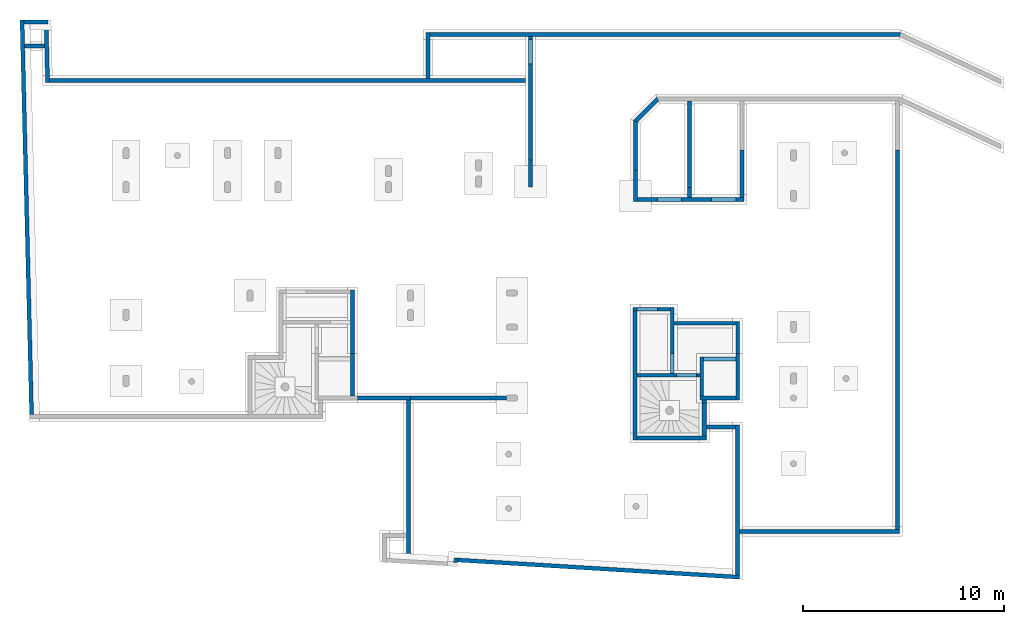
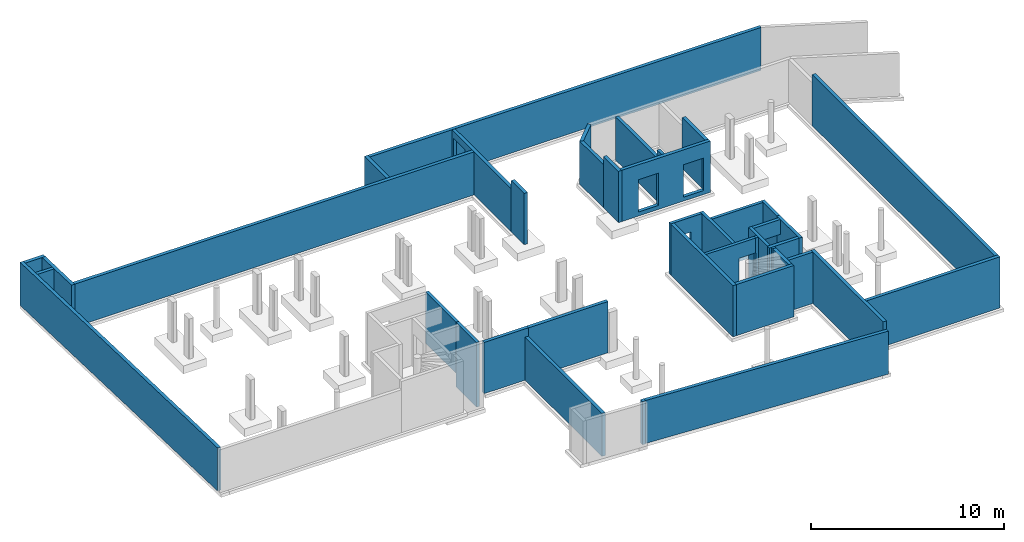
# One storey, part 4 of 6: 41 walls, 8 openings.
"""IFC2X3 building model written with IfcOpenShell, lengths in millimetres."""

from ifc_helpers import new_model, entity, si_unit, converted_unit, frame, frame_2d, origin, origin_with_axes, place, context, subcontext, project, spatial, polyline, rectangle, outline, extrude, faceted_brep, material, layer, layer_set, layer_usage, element, save


model = new_model("IFC2X3")

# Units and contexts
model_context = context("Model", 3, precision=1e-05, world=origin())
body_context = subcontext(model_context, "Body", "Model", "MODEL_VIEW")
ifc_project = project(units=[si_unit("LENGTHUNIT", "METRE", prefix="MILLI"), converted_unit("PLANEANGLEUNIT", "DEGREE", entity("IfcPlaneAngleMeasure", 0.0174532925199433), si_unit("PLANEANGLEUNIT", "RADIAN"), dimensions=[0, 0, 0, 0, 0, 0, 0]), si_unit("AREAUNIT", "SQUARE_METRE"), si_unit("VOLUMEUNIT", "CUBIC_METRE")], contexts=[model_context])

# Site, building, storey
site_placement = place(None, origin())
site = spatial("IfcSite", under=ifc_project, at=site_placement, Name="Propriété", CompositionType="ELEMENT")
building_placement = place(site_placement, origin_with_axes())
building = spatial("IfcBuilding", under=site, at=building_placement, Name="Bâtiment", CompositionType="ELEMENT")
storey_placement = place(building_placement, frame((0.0, 0.0, -3300.0), z_axis=(0.0, 0.0, 1.0), x_axis=(1.0, 0.0, 0.0)))
storey = spatial("IfcBuildingStorey", under=building, at=storey_placement, Name="Sous-sol", CompositionType="ELEMENT", Elevation=-3300.0)

# Walls
ifc_material_1 = material(Name="béton")
ifc_layer_1 = layer(ifc_material_1, 200.0)
ifc_layer_set_1 = layer_set([ifc_layer_1])
ifc_layer_usage_1 = layer_usage(ifc_layer_set_1, "AXIS2", "POSITIVE", 0.0)
wall_1_placement = place(storey_placement, frame((14620.58775641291, 1284.429874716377, 0.0), z_axis=(0.0, 0.0, 1.0), x_axis=(0.0, -1.0, 0.0)))
element("IfcWallStandardCase", 1, at=wall_1_placement, inside=storey, material=ifc_layer_usage_1, Name="<Unnamed Element>", context=body_context, shape_type="SweptSolid", body=[
    extrude(outline(polyline([(0.0, 0.0), (7952.179455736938, 0.0), (7963.888086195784, 200.0), (0.0, 200.0), (0.0, 0.0)])), origin_with_axes(), (0.0, 0.0, 1.0), 2720.0),
])
ifc_material_2 = material(Name="béton")
ifc_layer_2 = layer(ifc_material_2, 199.999999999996)
ifc_layer_set_2 = layer_set([ifc_layer_2])
ifc_layer_usage_2 = layer_usage(ifc_layer_set_2, "AXIS2", "POSITIVE", 0.0)
wall_2_placement = place(storey_placement, frame((17161.72038704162, -6816.515495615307, 0.0), z_axis=(0.0, 0.0, 1.0), x_axis=(0.05844308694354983, 0.998290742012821, 0.0)))
element("IfcWallStandardCase", 2, at=wall_2_placement, inside=storey, material=ifc_layer_usage_2, Name="<Unnamed Element>", context=body_context, shape_type="SweptSolid", body=[
    extrude(outline(polyline([(0.0, 0.0), (226.1947354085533, 0.0), (226.6984999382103, 199.999999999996), (6.117772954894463e-12, 199.999999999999), (0.0, 0.0)])), origin_with_axes(), (0.0, 0.0, 1.0), 2720.0),
])
ifc_material_3 = material(Name="béton")
ifc_layer_3 = layer(ifc_material_3, 199.9999999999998)
ifc_layer_set_3 = layer_set([ifc_layer_3])
ifc_layer_usage_3 = layer_usage(ifc_layer_set_3, "AXIS2", "POSITIVE", 0.0)
wall_3_placement = place(storey_placement, frame((17163.25125116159, -6790.366167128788, 0.0), z_axis=(0.0, 0.0, 1.0), x_axis=(0.998140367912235, -0.06095741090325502, 0.0)))
element("IfcWallStandardCase", 3, at=wall_3_placement, inside=storey, material=ifc_layer_usage_3, Name="<Unnamed Element>", context=body_context, shape_type="SweptSolid", body=[
    extrude(outline(polyline([(0.0, 0.0), (14063.48942144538, 0.0), (14051.27522535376, 199.9999999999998), (-0.5037645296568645, 199.9999999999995), (0.0, 0.0)])), origin_with_axes(), (0.0, 0.0, 1.0), 2720.0),
])
ifc_material_4 = material(Name="béton")
ifc_layer_4 = layer(ifc_material_4, 200.0)
ifc_layer_set_4 = layer_set([ifc_layer_4])
ifc_layer_usage_4 = layer_usage(ifc_layer_set_4, "AXIS2", "POSITIVE", 0.0)
wall_4_placement = place(storey_placement, frame((31200.58775641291, -7447.267451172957, 0.0), z_axis=(0.0, 0.0, 1.0), x_axis=(0.0, 1.0, 0.0)))
element("IfcWallStandardCase", 4, at=wall_4_placement, inside=storey, material=ifc_layer_usage_4, Name="<Unnamed Element>", context=body_context, shape_type="SweptSolid", body=[
    extrude(outline(polyline([(0.0, 0.0), (7481.697325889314, 0.0), (7481.697325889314, 200.0), (12.21419609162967, 200.0), (0.0, 0.0)])), origin_with_axes(), (0.0, 0.0, 1.0), 3240.0),
])
ifc_material_5 = material(Name="béton")
ifc_layer_5 = layer(ifc_material_5, 200.0)
ifc_layer_set_5 = layer_set([ifc_layer_5])
ifc_layer_usage_5 = layer_usage(ifc_layer_set_5, "AXIS2", "POSITIVE", 0.0)
wall_5_placement = place(storey_placement, frame((31000.58775641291, 34.42987471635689, 0.0), z_axis=(0.0, 0.0, 1.0), x_axis=(-0.9999999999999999, 1.37698281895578e-15, 0.0)))
element("IfcWallStandardCase", 5, at=wall_5_placement, inside=storey, material=ifc_layer_usage_5, Name="<Unnamed Element>", context=body_context, shape_type="SweptSolid", body=[
    extrude(rectangle(XDim=1450.0, YDim=200.0, at=frame_2d((725.0, 99.99999999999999), x_axis=(1.0, 0.0))), origin_with_axes(), (0.0, 0.0, 1.0), 3240.0),
])
ifc_material_6 = material(Name="béton")
ifc_layer_6 = layer(ifc_material_6, 200.0)
ifc_layer_set_6 = layer_set([ifc_layer_6])
ifc_layer_usage_6 = layer_usage(ifc_layer_set_6, "AXIS2", "POSITIVE", 0.0)
wall_6_placement = place(storey_placement, frame((29230.58775641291, 1284.429874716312, -850.0), z_axis=(0.0, 0.0, 1.0), x_axis=(0.9999999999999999, 1.092409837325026e-14, 0.0)))
element("IfcWallStandardCase", 6, at=wall_6_placement, inside=storey, material=ifc_layer_usage_6, Name="<Unnamed Element>", context=body_context, shape_type="SweptSolid", body=[
    extrude(rectangle(XDim=1790.0, YDim=200.0, at=frame_2d((895.0, 99.99999999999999), x_axis=(1.0, 0.0))), origin_with_axes(), (0.0, 0.0, 1.0), 4090.0),
])
ifc_material_7 = material(Name="béton")
ifc_layer_7 = layer(ifc_material_7, 180.0)
ifc_layer_set_7 = layer_set([ifc_layer_7])
ifc_layer_usage_7 = layer_usage(ifc_layer_set_7, "AXIS2", "POSITIVE", 0.0)
wall_7_placement = place(storey_placement, frame((31020.58775641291, 5204.429874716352, 0.0), z_axis=(0.0, 0.0, 1.0), x_axis=(-1.0, 0.0, 0.0)))
element("IfcWallStandardCase", 7, at=wall_7_placement, inside=storey, material=ifc_layer_usage_7, Name="<Unnamed Element>", context=body_context, shape_type="SweptSolid", body=[
    extrude(rectangle(XDim=3069.999999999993, YDim=180.0, at=frame_2d((1534.999999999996, 90.0), x_axis=(1.0, 0.0))), origin_with_axes(), (0.0, 0.0, 1.0), 3240.0),
])

# Wall, opening
ifc_material_8 = material(Name="béton")
ifc_layer_8 = layer(ifc_material_8, 180.0)
ifc_layer_set_8 = layer_set([ifc_layer_8])
ifc_layer_usage_8 = layer_usage(ifc_layer_set_8, "AXIS2", "POSITIVE", 0.0)
wall_8_placement = place(storey_placement, frame((27950.58775641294, 2604.429874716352, 0.0), z_axis=(0.0, 0.0, 1.0), x_axis=(-9.9217603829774e-15, 1.0, 0.0)))
wall_8 = element("IfcWallStandardCase", 8, at=wall_8_placement, inside=storey, material=ifc_layer_usage_8, Name="<Unnamed Element>", context=body_context, shape_type="SweptSolid", body=[
    extrude(rectangle(XDim=3300.0, YDim=180.0, at=frame_2d((1650.0, 90.0), x_axis=(1.0, 0.0))), origin_with_axes(), (0.0, 0.0, 1.0), 3240.0),
])
opening_1_placement = place(wall_8_placement, frame((0.0, 0.0, 250.0), z_axis=(0.0, 1.0, 0.0), x_axis=(0.0, 0.0, 1.0)))
element("IfcOpeningElement", 9, at=opening_1_placement, cuts=wall_8, Name="Baie de porte", ObjectType="Opening", context=body_context, shape_type="Brep", body=[
    faceted_brep([(0.0, 1.818989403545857e-12, 180.0), (0.0, 0.0, 0.0), (0.0, 1010.0, 0.0), (0.0, 1010.000000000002, 180.0), (2050.0, 0.0, 0.0), (2050.0, 1.818989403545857e-12, 180.0), (2050.0, 1010.000000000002, 180.0), (2050.0, 1010.0, 0.0), (0.0, 0.0, 0.0), (0.0, 1.818989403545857e-12, 180.0), (2050.0, 1.818989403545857e-12, 180.0), (2050.0, 0.0, 0.0), (0.0, 1010.0, 0.0), (0.0, 0.0, 0.0), (2050.0, 0.0, 0.0), (2050.0, 1010.0, 0.0), (0.0, 1010.000000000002, 180.0), (0.0, 1010.0, 0.0), (2050.0, 1010.0, 0.0), (2050.0, 1010.000000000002, 180.0), (0.0, 1.818989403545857e-12, 180.0), (0.0, 1010.000000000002, 180.0), (2050.0, 1010.000000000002, 180.0), (2050.0, 1.818989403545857e-12, 180.0)], [[[0, 1, 2, 3]], [[4, 5, 6, 7]], [[8, 9, 10, 11]], [[12, 13, 14, 15]], [[16, 17, 18, 19]], [[20, 21, 22, 23]]], orient=[[False], [False], [False], [False], [False], [False]]),
])

ifc_material_9 = material(Name="béton")
ifc_layer_9 = layer(ifc_material_9, 180.0)
ifc_layer_set_9 = layer_set([ifc_layer_9])
ifc_layer_usage_9 = layer_usage(ifc_layer_set_9, "AXIS2", "POSITIVE", 0.0)
wall_9_placement = place(storey_placement, frame((27770.58775641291, 5904.429874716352, 0.0), z_axis=(0.0, 0.0, 1.0), x_axis=(-1.0, 0.0, 0.0)))
wall_9 = element("IfcWallStandardCase", 10, at=wall_9_placement, inside=storey, material=ifc_layer_usage_9, Name="<Unnamed Element>", context=body_context, shape_type="SweptSolid", body=[
    extrude(rectangle(XDim=1870.0, YDim=180.0, at=frame_2d((935.0, 90.0), x_axis=(1.0, 0.0))), origin_with_axes(), (0.0, 0.0, 1.0), 3240.0),
])
opening_2_placement = place(wall_9_placement, frame((660.0, 0.0, 250.0), z_axis=(0.0, 1.0, 0.0), x_axis=(0.0, 0.0, 1.0)))
element("IfcOpeningElement", 11, at=opening_2_placement, cuts=wall_9, Name="Baie de porte", ObjectType="Opening", context=body_context, shape_type="SweptSolid", body=[
    extrude(rectangle(XDim=2050.0, YDim=1010.0, at=frame_2d((1025.0, 505.0), x_axis=(1.0, 0.0))), origin_with_axes(), (0.0, 0.0, 1.0), 180.0),
])

# Walls
ifc_material_10 = material(Name="béton")
ifc_layer_10 = layer(ifc_material_10, 200.0)
ifc_layer_set_10 = layer_set([ifc_layer_10])
ifc_layer_usage_10 = layer_usage(ifc_layer_set_10, "AXIS2", "POSITIVE", 0.0)
wall_10_placement = place(storey_placement, frame((25900.58775641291, 5724.429874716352, 0.0), z_axis=(0.0, 0.0, 1.0), x_axis=(0.0, -1.0, 0.0)))
element("IfcWallStandardCase", 12, at=wall_10_placement, inside=storey, material=ifc_layer_usage_10, Name="<Unnamed Element>", context=body_context, shape_type="SweptSolid", body=[
    extrude(rectangle(XDim=6440.0, YDim=200.0, at=frame_2d((3220.0, 100.0), x_axis=(1.0, 0.0))), origin_with_axes(), (0.0, 0.0, 1.0), 3240.0),
])
ifc_material_11 = material(Name="béton")
ifc_layer_11 = layer(ifc_material_11, 200.0)
ifc_layer_set_11 = layer_set([ifc_layer_11])
ifc_layer_usage_11 = layer_usage(ifc_layer_set_11, "AXIS2", "POSITIVE", 0.0)
wall_11_placement = place(storey_placement, frame((26100.58775641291, -715.5701252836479, 0.0), z_axis=(0.0, 0.0, 1.0), x_axis=(1.0, 0.0, 0.0)))
element("IfcWallStandardCase", 13, at=wall_11_placement, inside=storey, material=ifc_layer_usage_11, Name="<Unnamed Element>", context=body_context, shape_type="SweptSolid", body=[
    extrude(rectangle(XDim=3450.0, YDim=200.0, at=frame_2d((1725.0, 100.0), x_axis=(1.0, 0.0))), origin_with_axes(), (0.0, 0.0, 1.0), 3240.0),
])
ifc_material_12 = material(Name="béton")
ifc_layer_12 = layer(ifc_material_12, 200.0)
ifc_layer_set_12 = layer_set([ifc_layer_12])
ifc_layer_usage_12 = layer_usage(ifc_layer_set_12, "AXIS2", "POSITIVE", 0.0)
wall_12_placement = place(storey_placement, frame((31200.58775641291, -5365.570125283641, 0.0), z_axis=(0.0, 0.0, 1.0), x_axis=(0.9999999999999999, 0.0, 0.0)))
element("IfcWallStandardCase", 14, at=wall_12_placement, inside=storey, material=ifc_layer_usage_12, Name="<Unnamed Element>", context=body_context, shape_type="SweptSolid", body=[
    extrude(rectangle(XDim=7990.0, YDim=200.0, at=frame_2d((3995.0, 99.99999999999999), x_axis=(1.0, 0.0))), origin_with_axes(), (0.0, 0.0, 1.0), 3240.0),
])
ifc_material_13 = material(Name="béton")
ifc_layer_13 = layer(ifc_material_13, 199.9999999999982)
ifc_layer_set_13 = layer_set([ifc_layer_13])
ifc_layer_usage_13 = layer_usage(ifc_layer_set_13, "AXIS2", "POSITIVE", 0.0)
wall_13_placement = place(storey_placement, frame((26120.58775641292, 15134.42987471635, 0.0), z_axis=(0.0, 0.0, 1.0), x_axis=(0.7071067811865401, 0.7071067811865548, 0.0)))
element("IfcWallStandardCase", 15, at=wall_13_placement, inside=storey, material=ifc_layer_usage_13, Name="<Unnamed Element>", context=body_context, shape_type="SweptSolid", body=[
    extrude(outline(polyline([(0.0, 0.0), (1484.924240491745, 0.0), (1567.766952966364, 199.9999999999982), (-82.8427124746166, 200.0000000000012), (0.0, 0.0)])), origin_with_axes(), (0.0, 0.0, 1.0), 2720.0),
])

# Wall, openings
ifc_material_14 = material(Name="béton")
ifc_layer_14 = layer(ifc_material_14, 200.0)
ifc_layer_set_14 = layer_set([ifc_layer_14])
ifc_layer_usage_14 = layer_usage(ifc_layer_set_14, "AXIS2", "POSITIVE", 0.0)
wall_14_placement = place(storey_placement, frame((26120.58775641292, 11184.42987471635, 0.0), z_axis=(0.0, 0.0, 1.0), x_axis=(1.0, 0.0, 0.0)))
wall_14 = element("IfcWallStandardCase", 16, at=wall_14_placement, inside=storey, material=ifc_layer_usage_14, Name="<Unnamed Element>", context=body_context, shape_type="SweptSolid", body=[
    extrude(rectangle(XDim=5299.999999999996, YDim=200.0, at=frame_2d((2649.999999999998, 100.0), x_axis=(1.0, 0.0))), origin_with_axes(), (0.0, 0.0, 1.0), 3240.0),
])
opening_3_placement = place(wall_14_placement, frame((989.9999999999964, 0.0, 250.0), z_axis=(0.0, 1.0, 0.0), x_axis=(0.0, 0.0, 1.0)))
element("IfcOpeningElement", 17, at=opening_3_placement, cuts=wall_14, Name="Baie de porte", ObjectType="Opening", context=body_context, shape_type="SweptSolid", body=[
    extrude(rectangle(XDim=2050.0, YDim=1210.0, at=frame_2d((1025.0, 605.0), x_axis=(1.0, 0.0))), origin_with_axes(), (0.0, 0.0, 1.0), 200.0),
])
opening_4_placement = place(wall_14_placement, frame((3689.999999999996, 0.0, 250.0), z_axis=(0.0, 1.0, 0.0), x_axis=(0.0, 0.0, 1.0)))
element("IfcOpeningElement", 18, at=opening_4_placement, cuts=wall_14, Name="Baie de porte", ObjectType="Opening", context=body_context, shape_type="SweptSolid", body=[
    extrude(rectangle(XDim=2050.0, YDim=1210.0, at=frame_2d((1025.0, 605.0), x_axis=(1.0, 0.0))), origin_with_axes(), (0.0, 0.0, 1.0), 200.0),
])

# Walls
ifc_material_15 = material(Name="béton")
ifc_layer_15 = layer(ifc_material_15, 200.0)
ifc_layer_set_15 = layer_set([ifc_layer_15])
ifc_layer_usage_15 = layer_usage(ifc_layer_set_15, "AXIS2", "POSITIVE", 0.0)
wall_15_placement = place(storey_placement, frame((19585.5877564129, 1484.429874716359, 0.0), z_axis=(0.0, 0.0, 1.0), x_axis=(-1.0, 3.817396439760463e-15, 0.0)))
element("IfcWallStandardCase", 19, at=wall_15_placement, inside=storey, material=ifc_layer_usage_15, Name="<Unnamed Element>", context=body_context, shape_type="SweptSolid", body=[
    extrude(rectangle(XDim=4764.999999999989, YDim=200.0, at=frame_2d((2382.499999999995, 100.0), x_axis=(1.0, 0.0))), origin_with_axes(), (0.0, 0.0, 1.0), 3240.0),
])
ifc_material_16 = material(Name="béton")
ifc_layer_16 = layer(ifc_material_16, 180.0)
ifc_layer_set_16 = layer_set([ifc_layer_16])
ifc_layer_usage_16 = layer_usage(ifc_layer_set_16, "AXIS2", "POSITIVE", 0.0)
wall_16_placement = place(storey_placement, frame((29230.58775641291, 3434.429874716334, -850.0), z_axis=(0.0, 0.0, 1.0), x_axis=(0.0, -1.0, 0.0)))
element("IfcWallStandardCase", 20, at=wall_16_placement, inside=storey, material=ifc_layer_usage_16, Name="<Unnamed Element>", context=body_context, shape_type="SweptSolid", body=[
    extrude(rectangle(XDim=1950.0, YDim=180.0, at=frame_2d((975.0, 90.0), x_axis=(1.0, 0.0))), origin_with_axes(), (0.0, 0.0, 1.0), 4090.0),
])

# Wall, opening
ifc_material_17 = material(Name="béton")
ifc_layer_17 = layer(ifc_material_17, 200.0)
ifc_layer_set_17 = layer_set([ifc_layer_17])
ifc_layer_usage_17 = layer_usage(ifc_layer_set_17, "AXIS2", "POSITIVE", 0.0)
wall_17_placement = place(storey_placement, frame((31020.58775641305, 3434.429874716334, -850.0), z_axis=(0.0, 0.0, 1.0), x_axis=(-1.0, 0.0, 0.0)))
wall_17 = element("IfcWallStandardCase", 21, at=wall_17_placement, inside=storey, material=ifc_layer_usage_17, Name="<Unnamed Element>", context=body_context, shape_type="SweptSolid", body=[
    extrude(rectangle(XDim=1610.000000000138, YDim=200.0, at=frame_2d((805.0000000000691, 100.0), x_axis=(1.0, 0.0))), origin_with_axes(), (0.0, 0.0, 1.0), 4090.0),
])
opening_5_placement = place(wall_17_placement, frame((0.0, 0.0, 1100.0), z_axis=(0.0, 1.0, 0.0), x_axis=(0.0, 0.0, 1.0)))
element("IfcOpeningElement", 22, at=opening_5_placement, cuts=wall_17, Name="Baie de porte", ObjectType="Opening", context=body_context, shape_type="Brep", body=[
    faceted_brep([(0.0, 1610.000000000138, 0.0), (0.0, 1610.000000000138, 200.0), (0.0, 0.0, 200.0), (0.0, 0.0, 0.0), (2050.0, 1610.000000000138, 200.0), (2050.0, 1610.000000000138, 0.0), (2050.0, 0.0, 0.0), (2050.0, 0.0, 200.0), (0.0, 1610.000000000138, 200.0), (0.0, 1610.000000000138, 0.0), (2050.0, 1610.000000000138, 0.0), (2050.0, 1610.000000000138, 200.0), (0.0, 0.0, 200.0), (0.0, 1610.000000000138, 200.0), (2050.0, 1610.000000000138, 200.0), (2050.0, 0.0, 200.0), (0.0, 0.0, 0.0), (0.0, 0.0, 200.0), (2050.0, 0.0, 200.0), (2050.0, 0.0, 0.0), (0.0, 1610.000000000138, 0.0), (0.0, 0.0, 0.0), (2050.0, 0.0, 0.0), (2050.0, 1610.000000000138, 0.0)], [[[0, 1, 2, 3]], [[4, 5, 6, 7]], [[8, 9, 10, 11]], [[12, 13, 14, 15]], [[16, 17, 18, 19]], [[20, 21, 22, 23]]], orient=[[False], [False], [False], [False], [False], [False]]),
])

# Walls
ifc_material_18 = material(Name="béton")
ifc_layer_18 = layer(ifc_material_18, 200.0)
ifc_layer_set_18 = layer_set([ifc_layer_18])
ifc_layer_usage_18 = layer_usage(ifc_layer_set_18, "AXIS2", "POSITIVE", 0.0)
wall_18_placement = place(storey_placement, frame((-4650.858561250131, 20223.90173189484, 0.0), z_axis=(0.0, 0.0, 1.0), x_axis=(0.0241792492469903, -0.9997076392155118, 0.0)))
element("IfcWallStandardCase", 23, at=wall_18_placement, inside=storey, material=ifc_layer_usage_18, Name="<Unnamed Element>", context=body_context, shape_type="SweptSolid", body=[
    extrude(outline(polyline([(0.0, 0.0), (19655.21827221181, 0.0), (19660.05553628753, 200.0), (4.837264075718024, 200.0000000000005), (0.0, 0.0)])), origin_with_axes(), (0.0, 0.0, 1.0), 2720.0),
])
ifc_material_19 = material(Name="béton")
ifc_layer_19 = layer(ifc_material_19, 200.0)
ifc_layer_set_19 = layer_set([ifc_layer_19])
ifc_layer_usage_19 = layer_usage(ifc_layer_set_19, "AXIS2", "POSITIVE", 0.0)
wall_19_placement = place(storey_placement, frame((-3250.449136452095, 20223.90173189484, 0.0), z_axis=(0.0, 0.0, 1.0), x_axis=(-1.0, 0.0, 0.0)))
element("IfcWallStandardCase", 24, at=wall_19_placement, inside=storey, material=ifc_layer_usage_19, Name="<Unnamed Element>", context=body_context, shape_type="SweptSolid", body=[
    extrude(outline(polyline([(0.0, 0.0), (1200.350935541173, 0.0), (1195.513671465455, 200.0), (-4.837264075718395, 200.0), (0.0, 0.0)])), origin_with_axes(), (0.0, 0.0, 1.0), 2720.0),
])
ifc_material_20 = material(Name="béton")
ifc_layer_20 = layer(ifc_material_20, 200.0)
ifc_layer_set_20 = layer_set([ifc_layer_20])
ifc_layer_usage_20 = layer_usage(ifc_layer_set_20, "AXIS2", "POSITIVE", 0.0)
wall_20_placement = place(storey_placement, frame((-3174.884724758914, 17099.6393178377, 0.0), z_axis=(0.0, 0.0, 1.0), x_axis=(-0.0241792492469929, 0.9997076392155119, 0.0)))
element("IfcWallStandardCase", 25, at=wall_20_placement, inside=storey, material=ifc_layer_usage_20, Name="<Unnamed Element>", context=body_context, shape_type="SweptSolid", body=[
    extrude(outline(polyline([(0.0, 0.0), (2925.117603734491, -1.4210854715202e-14), (2929.954867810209, 200.0), (4.837264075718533, 200.0), (0.0, 0.0)])), origin_with_axes(), (0.0, 0.0, 1.0), 2720.0),
])
ifc_material_21 = material(Name="béton")
ifc_layer_21 = layer(ifc_material_21, 200.0)
ifc_layer_set_21 = layer_set([ifc_layer_21])
ifc_layer_usage_21 = layer_usage(ifc_layer_set_21, "AXIS2", "POSITIVE", 0.0)
wall_21_placement = place(storey_placement, frame((20700.58775641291, 17299.63931783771, 0.0), z_axis=(0.0, 0.0, 1.0), x_axis=(-0.9999999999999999, -6.093687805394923e-16, 0.0)))
element("IfcWallStandardCase", 26, at=wall_21_placement, inside=storey, material=ifc_layer_usage_21, Name="<Unnamed Element>", context=body_context, shape_type="SweptSolid", body=[
    extrude(outline(polyline([(0.0, 0.0), (23880.30974524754, 0.0), (23875.47248117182, 200.0), (1.218737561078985e-13, 200.0), (0.0, 0.0)])), origin_with_axes(), (0.0, 0.0, 1.0), 2720.0),
])
ifc_material_22 = material(Name="béton")
ifc_layer_22 = layer(ifc_material_22, 200.0)
ifc_layer_set_22 = layer_set([ifc_layer_22])
ifc_layer_usage_22 = layer_usage(ifc_layer_set_22, "AXIS2", "POSITIVE", 0.0)
wall_22_placement = place(storey_placement, frame((15580.58775641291, 19599.80096087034, 0.0), z_axis=(0.0, 0.0, 1.0), x_axis=(0.0, -1.0, 0.0)))
element("IfcWallStandardCase", 27, at=wall_22_placement, inside=storey, material=ifc_layer_usage_22, Name="<Unnamed Element>", context=body_context, shape_type="SweptSolid", body=[
    extrude(outline(polyline([(0.0, 0.0), (2300.16164303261, 0.0), (2300.16164303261, 200.0), (0.001366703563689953, 200.0), (0.0, 0.0)])), origin_with_axes(), (0.0, 0.0, 1.0), 2720.0),
])
ifc_material_23 = material(Name="béton")
ifc_layer_23 = layer(ifc_material_23, 199.9999999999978)
ifc_layer_set_23 = layer_set([ifc_layer_23])
ifc_layer_usage_23 = layer_usage(ifc_layer_set_23, "AXIS2", "POSITIVE", 0.0)
wall_23_placement = place(storey_placement, frame((39235.02710431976, 19599.6393178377, 0.0), z_axis=(0.0, 0.0, 1.0), x_axis=(-0.9999999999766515, 6.833517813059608e-06, 0.0)))
element("IfcWallStandardCase", 28, at=wall_23_placement, inside=storey, material=ifc_layer_usage_23, Name="<Unnamed Element>", context=body_context, shape_type="SweptSolid", body=[
    extrude(outline(polyline([(0.0, 0.0), (23454.43934845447, 0.0), (23454.43798175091, 199.9999999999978), (44.4386308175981, 199.9999999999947), (0.0, 0.0)])), origin_with_axes(), (0.0, 0.0, 1.0), 2720.0),
])
ifc_material_24 = material(Name="béton")
ifc_layer_24 = layer(ifc_material_24, 199.99999998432)
ifc_layer_set_24 = layer_set([ifc_layer_24])
ifc_layer_usage_24 = layer_usage(ifc_layer_set_24, "AXIS2", "POSITIVE", 0.0)
wall_24_placement = place(storey_placement, frame((-4416.939223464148, 18823.90173189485, 0.0), z_axis=(0.0, 0.0, 1.0), x_axis=(1.0, 1.573693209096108e-11, 0.0)))
element("IfcWallStandardCase", 29, at=wall_24_placement, inside=storey, material=ifc_layer_usage_24, Name="<Unnamed Element>", context=body_context, shape_type="SweptSolid", body=[
    extrude(outline(polyline([(0.0, 0.0), (1000.292446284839, 0.0), (995.4551822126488, 199.99999998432), (-4.837264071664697, 200.0000000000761), (0.0, 0.0)])), origin_with_axes(), (0.0, 0.0, 1.0), 2720.0),
])
ifc_material_25 = material(Name="béton")
ifc_layer_25 = layer(ifc_material_25, 200.0)
ifc_layer_set_25 = layer_set([ifc_layer_25])
ifc_layer_usage_25 = layer_usage(ifc_layer_set_25, "AXIS2", "POSITIVE", 0.0)
wall_25_placement = place(storey_placement, frame((12170.58775641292, 1284.429874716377, 0.0), z_axis=(0.0, 0.0, 1.0), x_axis=(1.0, 0.0, 0.0)))
element("IfcWallStandardCase", 30, at=wall_25_placement, inside=storey, material=ifc_layer_usage_25, Name="<Unnamed Element>", context=body_context, shape_type="SweptSolid", body=[
    extrude(rectangle(XDim=2649.999999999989, YDim=200.0, at=frame_2d((1324.999999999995, 100.0), x_axis=(1.0, 0.0))), origin_with_axes(), (0.0, 0.0, 1.0), 3240.0),
])
ifc_material_26 = material(Name="béton")
ifc_layer_26 = layer(ifc_material_26, 180.0)
ifc_layer_set_26 = layer_set([ifc_layer_26])
ifc_layer_usage_26 = layer_usage(ifc_layer_set_26, "AXIS2", "POSITIVE", 0.0)
wall_26_placement = place(storey_placement, frame((11830.58775641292, 6762.14711771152, 0.0), z_axis=(0.0, 0.0, 1.0), x_axis=(5.750334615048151e-16, -1.0, 0.0)))
element("IfcWallStandardCase", 31, at=wall_26_placement, inside=storey, material=ifc_layer_usage_26, Name="<Unnamed Element>", context=body_context, shape_type="SweptSolid", body=[
    extrude(rectangle(XDim=3163.275748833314, YDim=180.0, at=frame_2d((1581.637874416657, 90.0), x_axis=(1.0, 0.0))), origin_with_axes(), (0.0, 0.0, 1.0), 3240.0),
])
ifc_material_27 = material(Name="béton")
ifc_layer_27 = layer(ifc_material_27, 180.0)
ifc_layer_set_27 = layer_set([ifc_layer_27])
ifc_layer_usage_27 = layer_usage(ifc_layer_set_27, "AXIS2", "POSITIVE", 0.0)
wall_27_placement = place(storey_placement, frame((11830.58775641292, 3598.871368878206, -850.0), z_axis=(0.0, 0.0, 1.0), x_axis=(8.602694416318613e-16, -1.0, 0.0)))
element("IfcWallStandardCase", 32, at=wall_27_placement, inside=storey, material=ifc_layer_usage_27, Name="<Unnamed Element>", context=body_context, shape_type="SweptSolid", body=[
    extrude(rectangle(XDim=2114.441494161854, YDim=180.0, at=frame_2d((1057.220747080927, 90.0), x_axis=(1.0, 0.0))), origin_with_axes(), (0.0, 0.0, 1.0), 4090.0),
])
ifc_material_28 = material(Name="béton")
ifc_layer_28 = layer(ifc_material_28, 180.0)
ifc_layer_set_28 = layer_set([ifc_layer_28])
ifc_layer_usage_28 = layer_usage(ifc_layer_set_28, "AXIS2", "POSITIVE", 0.0)
wall_28_placement = place(storey_placement, frame((31200.58775641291, 3598.871368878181, 0.0), z_axis=(0.0, 0.0, 1.0), x_axis=(0.0, 0.9999999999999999, 0.0)))
element("IfcWallStandardCase", 33, at=wall_28_placement, inside=storey, material=ifc_layer_usage_28, Name="<Unnamed Element>", context=body_context, shape_type="SweptSolid", body=[
    extrude(rectangle(XDim=1605.558505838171, YDim=180.0, at=frame_2d((802.7792529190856, 89.99999999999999), x_axis=(1.0, 0.0))), origin_with_axes(), (0.0, 0.0, 1.0), 3240.0),
])
ifc_material_29 = material(Name="béton")
ifc_layer_29 = layer(ifc_material_29, 180.0)
ifc_layer_set_29 = layer_set([ifc_layer_29])
ifc_layer_usage_29 = layer_usage(ifc_layer_set_29, "AXIS2", "POSITIVE", 0.0)
wall_29_placement = place(storey_placement, frame((31200.58775641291, 1284.429874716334, -850.0), z_axis=(0.0, 0.0, 1.0), x_axis=(0.0, 1.0, 0.0)))
element("IfcWallStandardCase", 34, at=wall_29_placement, inside=storey, material=ifc_layer_usage_29, Name="<Unnamed Element>", context=body_context, shape_type="SweptSolid", body=[
    extrude(rectangle(XDim=2314.441494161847, YDim=180.0, at=frame_2d((1157.220747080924, 90.0), x_axis=(1.0, 0.0))), origin_with_axes(), (0.0, 0.0, 1.0), 4090.0),
])

# Wall, opening
ifc_material_30 = material(Name="béton")
ifc_layer_30 = layer(ifc_material_30, 180.0)
ifc_layer_set_30 = layer_set([ifc_layer_30])
ifc_layer_usage_30 = layer_usage(ifc_layer_set_30, "AXIS2", "POSITIVE", 0.0)
wall_30_placement = place(storey_placement, frame((29070.58775641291, 2604.429874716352, 0.0), z_axis=(0.0, 0.0, 1.0), x_axis=(-1.0, 0.0, 0.0)))
wall_30 = element("IfcWallStandardCase", 35, at=wall_30_placement, inside=storey, material=ifc_layer_usage_30, Name="<Unnamed Element>", context=body_context, shape_type="SweptSolid", body=[
    extrude(rectangle(XDim=2970.0, YDim=180.0, at=frame_2d((1485.0, 90.0), x_axis=(1.0, 0.0))), origin_with_axes(), (0.0, 0.0, 1.0), 3240.0),
])
opening_6_placement = place(wall_30_placement, frame((0.0, 0.0, 250.0), z_axis=(0.0, 1.0, 0.0), x_axis=(0.0, 0.0, 1.0)))
element("IfcOpeningElement", 36, at=opening_6_placement, cuts=wall_30, Name="Baie de porte", ObjectType="Opening", context=body_context, shape_type="Brep", body=[
    faceted_brep([(0.0, 1000.000000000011, 0.0), (0.0, 1000.000000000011, 180.0), (0.0, 0.0, 180.0), (0.0, 0.0, 0.0), (2050.0, 1000.000000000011, 180.0), (2050.0, 1000.000000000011, 0.0), (2050.0, 0.0, 0.0), (2050.0, 0.0, 180.0), (0.0, 1000.000000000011, 180.0), (0.0, 1000.000000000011, 0.0), (2050.0, 1000.000000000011, 0.0), (2050.0, 1000.000000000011, 180.0), (0.0, 0.0, 180.0), (0.0, 1000.000000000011, 180.0), (2050.0, 1000.000000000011, 180.0), (2050.0, 0.0, 180.0), (0.0, 0.0, 0.0), (0.0, 0.0, 180.0), (2050.0, 0.0, 180.0), (2050.0, 0.0, 0.0), (0.0, 1000.000000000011, 0.0), (0.0, 0.0, 0.0), (2050.0, 0.0, 0.0), (2050.0, 1000.000000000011, 0.0)], [[[0, 1, 2, 3]], [[4, 5, 6, 7]], [[8, 9, 10, 11]], [[12, 13, 14, 15]], [[16, 17, 18, 19]], [[20, 21, 22, 23]]], orient=[[False], [False], [False], [False], [False], [False]]),
])

ifc_material_31 = material(Name="béton")
ifc_layer_31 = layer(ifc_material_31, 180.0)
ifc_layer_set_31 = layer_set([ifc_layer_31])
ifc_layer_usage_31 = layer_usage(ifc_layer_set_31, "AXIS2", "POSITIVE", 0.0)
wall_31_placement = place(storey_placement, frame((29230.58775641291, 2604.429874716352, -850.0), z_axis=(0.0, 0.0, 1.0), x_axis=(-1.0, 0.0, 0.0)))
wall_31 = element("IfcWallStandardCase", 37, at=wall_31_placement, inside=storey, material=ifc_layer_usage_31, Name="<Unnamed Element>", context=body_context, shape_type="SweptSolid", body=[
    extrude(rectangle(XDim=160.0, YDim=180.0, at=frame_2d((80.0, 90.0), x_axis=(1.0, 0.0))), origin_with_axes(), (0.0, 0.0, 1.0), 4090.0),
])
opening_7_placement = place(wall_31_placement, frame((150.0000000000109, 0.0, 1100.0), z_axis=(0.0, 1.0, 0.0), x_axis=(0.0, 0.0, 1.0)))
element("IfcOpeningElement", 38, at=opening_7_placement, cuts=wall_31, Name="Baie de porte", ObjectType="Opening", context=body_context, shape_type="SweptSolid", body=[
    extrude(rectangle(XDim=2050.0, YDim=9.999999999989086, at=frame_2d((1025.0, 4.999999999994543), x_axis=(1.0, 0.0))), origin_with_axes(), (0.0, 0.0, 1.0), 180.0),
])

# Walls
ifc_material_32 = material(Name="béton")
ifc_layer_32 = layer(ifc_material_32, 200.0)
ifc_layer_set_32 = layer_set([ifc_layer_32])
ifc_layer_usage_32 = layer_usage(ifc_layer_set_32, "AXIS2", "POSITIVE", 0.0)
wall_32_placement = place(storey_placement, frame((29550.58775641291, 1134.429874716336, -850.0), z_axis=(0.0, 0.0, 1.0), x_axis=(0.0, 1.0, 0.0)))
element("IfcWallStandardCase", 39, at=wall_32_placement, inside=storey, material=ifc_layer_usage_32, Name="<Unnamed Element>", context=body_context, shape_type="SweptSolid", body=[
    extrude(rectangle(XDim=149.9999999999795, YDim=200.0, at=frame_2d((74.99999999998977, 100.0), x_axis=(1.0, 0.0))), origin_with_axes(), (0.0, 0.0, 1.0), 4090.0),
])
ifc_material_33 = material(Name="béton")
ifc_layer_33 = layer(ifc_material_33, 200.0)
ifc_layer_set_33 = layer_set([ifc_layer_33])
ifc_layer_usage_33 = layer_usage(ifc_layer_set_33, "AXIS2", "POSITIVE", 0.0)
wall_33_placement = place(storey_placement, frame((29550.58775641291, -515.5701252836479, 0.0), z_axis=(0.0, 0.0, 1.0), x_axis=(0.0, 1.0, 0.0)))
element("IfcWallStandardCase", 40, at=wall_33_placement, inside=storey, material=ifc_layer_usage_33, Name="<Unnamed Element>", context=body_context, shape_type="SweptSolid", body=[
    extrude(rectangle(XDim=1649.999999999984, YDim=200.0, at=frame_2d((824.999999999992, 100.0), x_axis=(1.0, 0.0))), origin_with_axes(), (0.0, 0.0, 1.0), 3240.0),
])
ifc_material_34 = material(Name="béton")
ifc_layer_34 = layer(ifc_material_34, 200.0)
ifc_layer_set_34 = layer_set([ifc_layer_34])
ifc_layer_usage_34 = layer_usage(ifc_layer_set_34, "AXIS2", "POSITIVE", 0.0)
wall_34_placement = place(storey_placement, frame((20700.58775641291, 13249.6393178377, 0.0), z_axis=(0.0, 0.0, 1.0), x_axis=(0.0, -1.0, 0.0)))
element("IfcWallStandardCase", 41, at=wall_34_placement, inside=storey, material=ifc_layer_usage_34, Name="<Unnamed Element>", context=body_context, shape_type="SweptSolid", body=[
    extrude(rectangle(XDim=1349.999999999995, YDim=200.0, at=frame_2d((674.9999999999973, 100.0), x_axis=(1.0, 0.0))), origin_with_axes(), (0.0, 0.0, 1.0), 3240.0),
])

# Wall, opening
ifc_material_35 = material(Name="béton")
ifc_layer_35 = layer(ifc_material_35, 200.0)
ifc_layer_set_35 = layer_set([ifc_layer_35])
ifc_layer_usage_35 = layer_usage(ifc_layer_set_35, "AXIS2", "POSITIVE", 0.0)
wall_35_placement = place(storey_placement, frame((20700.58775641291, 19399.76597325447, 0.0), z_axis=(0.0, 0.0, 1.0), x_axis=(0.0, -1.0, 0.0)))
wall_35 = element("IfcWallStandardCase", 42, at=wall_35_placement, inside=storey, material=ifc_layer_usage_35, Name="<Unnamed Element>", context=body_context, shape_type="SweptSolid", body=[
    extrude(outline(polyline([(0.0, 0.0), (6150.126655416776, 0.0), (6150.126655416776, 200.0), (0.001366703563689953, 200.0), (0.0, 0.0)])), origin_with_axes(), (0.0, 0.0, 1.0), 2720.0),
])
opening_8_placement = place(wall_35_placement, frame((150.1266554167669, 0.0, 250.0), z_axis=(0.0, 1.0, 0.0), x_axis=(0.0, 0.0, 1.0)))
element("IfcOpeningElement", 43, at=opening_8_placement, cuts=wall_35, Name="Baie de porte", ObjectType="Opening", context=body_context, shape_type="SweptSolid", body=[
    extrude(rectangle(XDim=2050.000000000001, YDim=1210.0, at=frame_2d((1025.0, 605.0), x_axis=(1.0, 0.0))), origin_with_axes(), (0.0, 0.0, 1.0), 200.0),
])

# Walls
ifc_material_36 = material(Name="béton")
ifc_layer_36 = layer(ifc_material_36, 200.0)
ifc_layer_set_36 = layer_set([ifc_layer_36])
ifc_layer_usage_36 = layer_usage(ifc_layer_set_36, "AXIS2", "POSITIVE", 0.0)
wall_36_placement = place(storey_placement, frame((26120.58775641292, 11184.42987471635, 0.0), z_axis=(0.0, 0.0, 1.0), x_axis=(2.317183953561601e-15, 1.0, 0.0)))
element("IfcWallStandardCase", 44, at=wall_36_placement, inside=storey, material=ifc_layer_usage_36, Name="<Unnamed Element>", context=body_context, shape_type="SweptSolid", body=[
    extrude(rectangle(XDim=1570.0, YDim=200.0, at=frame_2d((785.0, 100.0), x_axis=(1.0, 0.0))), origin_with_axes(), (0.0, 0.0, 1.0), 3240.0),
])
ifc_material_37 = material(Name="béton")
ifc_layer_37 = layer(ifc_material_37, 200.0000000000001)
ifc_layer_set_37 = layer_set([ifc_layer_37])
ifc_layer_usage_37 = layer_usage(ifc_layer_set_37, "AXIS2", "POSITIVE", 0.0)
wall_37_placement = place(storey_placement, frame((26120.58775641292, 12754.42987471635, 0.0), z_axis=(0.0, 0.0, 1.0), x_axis=(1.528562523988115e-15, 1.0, 0.0)))
element("IfcWallStandardCase", 45, at=wall_37_placement, inside=storey, material=ifc_layer_usage_37, Name="<Unnamed Element>", context=body_context, shape_type="SweptSolid", body=[
    extrude(outline(polyline([(0.0, 0.0), (2380.0, 0.0), (2462.842712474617, 200.0000000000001), (-3.05712504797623e-13, 200.0), (0.0, 0.0)])), origin_with_axes(), (0.0, 0.0, 1.0), 2720.0),
])
ifc_material_38 = material(Name="béton")
ifc_layer_38 = layer(ifc_material_38, 200.0)
ifc_layer_set_38 = layer_set([ifc_layer_38])
ifc_layer_usage_38 = layer_usage(ifc_layer_set_38, "AXIS2", "POSITIVE", 0.0)
wall_38_placement = place(storey_placement, frame((28820.58775641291, 11864.42987471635, 0.0), z_axis=(0.0, 0.0, 1.0), x_axis=(0.0, 1.0, 0.0)))
element("IfcWallStandardCase", 46, at=wall_38_placement, inside=storey, material=ifc_layer_usage_38, Name="<Unnamed Element>", context=body_context, shape_type="SweptSolid", body=[
    extrude(rectangle(XDim=4320.000000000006, YDim=200.0, at=frame_2d((2160.000000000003, 100.0), x_axis=(1.0, 0.0))), origin_with_axes(), (0.0, 0.0, 1.0), 2720.0),
])
ifc_material_39 = material(Name="béton")
ifc_layer_39 = layer(ifc_material_39, 200.0)
ifc_layer_set_39 = layer_set([ifc_layer_39])
ifc_layer_usage_39 = layer_usage(ifc_layer_set_39, "AXIS2", "POSITIVE", 0.0)
wall_39_placement = place(storey_placement, frame((28820.58775641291, 11384.42987471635, 0.0), z_axis=(0.0, 0.0, 1.0), x_axis=(0.0, 1.0, 0.0)))
element("IfcWallStandardCase", 47, at=wall_39_placement, inside=storey, material=ifc_layer_usage_39, Name="<Unnamed Element>", context=body_context, shape_type="SweptSolid", body=[
    extrude(rectangle(XDim=480.0, YDim=200.0, at=frame_2d((240.0, 100.0), x_axis=(1.0, 0.0))), origin_with_axes(), (0.0, 0.0, 1.0), 3240.0),
])
ifc_material_40 = material(Name="béton")
ifc_layer_40 = layer(ifc_material_40, 200.0)
ifc_layer_set_40 = layer_set([ifc_layer_40])
ifc_layer_usage_40 = layer_usage(ifc_layer_set_40, "AXIS2", "POSITIVE", 0.0)
wall_40_placement = place(storey_placement, frame((31420.58775641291, 11384.42987471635, 0.0), z_axis=(0.0, 0.0, 1.0), x_axis=(0.0, 1.0, 0.0)))
element("IfcWallStandardCase", 48, at=wall_40_placement, inside=storey, material=ifc_layer_usage_40, Name="<Unnamed Element>", context=body_context, shape_type="SweptSolid", body=[
    extrude(rectangle(XDim=2370.0, YDim=200.0, at=frame_2d((1185.0, 100.0), x_axis=(1.0, 0.0))), origin_with_axes(), (0.0, 0.0, 1.0), 3240.0),
])
ifc_material_41 = material(Name="béton")
ifc_layer_41 = layer(ifc_material_41, 200.0)
ifc_layer_set_41 = layer_set([ifc_layer_41])
ifc_layer_usage_41 = layer_usage(ifc_layer_set_41, "AXIS2", "POSITIVE", 0.0)
wall_41_placement = place(storey_placement, frame((39190.58775641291, -5165.570125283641, 0.0), z_axis=(0.0, 0.0, 1.0), x_axis=(0.0, 0.9999999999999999, 0.0)))
element("IfcWallStandardCase", 49, at=wall_41_placement, inside=storey, material=ifc_layer_usage_41, Name="<Unnamed Element>", context=body_context, shape_type="SweptSolid", body=[
    extrude(rectangle(XDim=18919.99999999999, YDim=200.0, at=frame_2d((9459.999999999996, 99.99999999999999), x_axis=(1.0, 0.0))), origin_with_axes(), (0.0, 0.0, 1.0), 3240.0),
])

save(model, "model.ifc")
